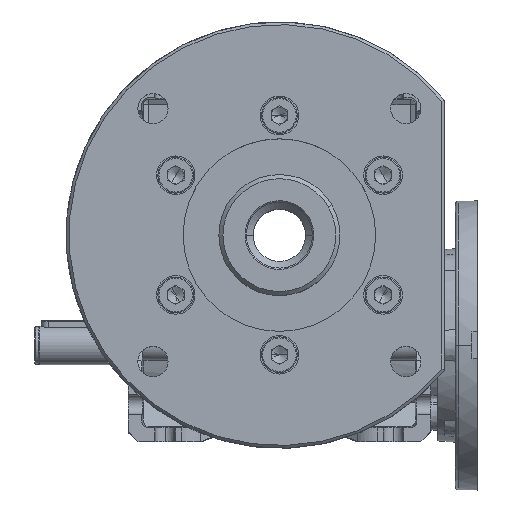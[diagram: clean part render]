
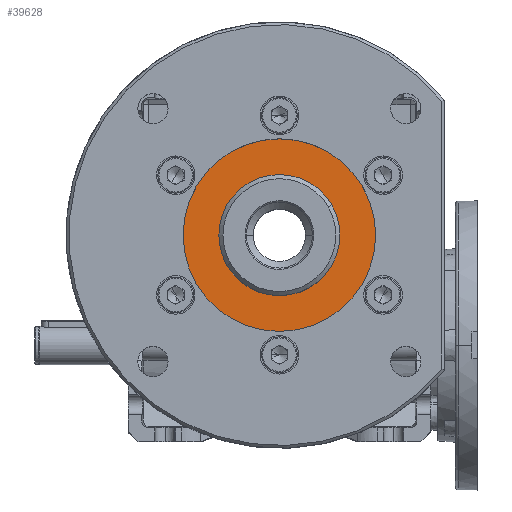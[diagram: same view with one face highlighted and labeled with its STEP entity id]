
A CAD part, top view. The second image highlights one B-rep face of the part: STEP entity #39628.
In plain terms, the highlighted planar face has unit normal (0, 0, 1).
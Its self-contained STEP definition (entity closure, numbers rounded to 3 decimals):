
#4089 = CARTESIAN_POINT ( 'NONE',  ( 0., 0., 58. ) ) ;
#7333 = CARTESIAN_POINT ( 'NONE',  ( -11., 19.053, 58. ) ) ;
#9053 = VERTEX_POINT ( 'NONE', #30747 ) ;
#11925 = ORIENTED_EDGE ( 'NONE', *, *, #33219, .F. ) ;
#12842 = EDGE_LOOP ( 'NONE', ( #72723, #68504 ) ) ;
#12880 = DIRECTION ( 'NONE',  ( 1., 0., 0. ) ) ;
#22388 = VERTEX_POINT ( 'NONE', #99630 ) ;
#23681 = FACE_OUTER_BOUND ( 'NONE', #62268, .T. ) ;
#24751 = FACE_BOUND ( 'NONE', #12842, .T. ) ;
#24763 = VERTEX_POINT ( 'NONE', #56347 ) ;
#25285 = CIRCLE ( 'NONE', #84377, 22. ) ;
#30747 = CARTESIAN_POINT ( 'NONE',  ( 19.053, 11., 58. ) ) ;
#33219 = EDGE_CURVE ( 'NONE', #65131, #22388, #34848, .T. ) ;
#34848 = CIRCLE ( 'NONE', #88840, 35. ) ;
#35628 = CARTESIAN_POINT ( 'NONE',  ( 0., 0., 58. ) ) ;
#35925 = DIRECTION ( 'NONE',  ( -0.866, -0.5, 0. ) ) ;
#39628 = ADVANCED_FACE ( 'NONE', ( #23681, #24751 ), #89298, .F. ) ;
#39696 = CARTESIAN_POINT ( 'NONE',  ( 0., 0., 58. ) ) ;
#47381 = EDGE_CURVE ( 'NONE', #9053, #24763, #53821, .T. ) ;
#49919 = CARTESIAN_POINT ( 'NONE',  ( 35., 0., 58. ) ) ;
#53821 = CIRCLE ( 'NONE', #94376, 22. ) ;
#56347 = CARTESIAN_POINT ( 'NONE',  ( -19.053, -11., 58. ) ) ;
#57003 = DIRECTION ( 'NONE',  ( 0., 0., -1. ) ) ;
#62268 = EDGE_LOOP ( 'NONE', ( #11925, #90342 ) ) ;
#63869 = DIRECTION ( 'NONE',  ( -0.866, -0.5, 0. ) ) ;
#65131 = VERTEX_POINT ( 'NONE', #49919 ) ;
#68504 = ORIENTED_EDGE ( 'NONE', *, *, #47381, .T. ) ;
#71396 = DIRECTION ( 'NONE',  ( 1., 0., 0. ) ) ;
#71924 = DIRECTION ( 'NONE',  ( 0., 0., -1. ) ) ;
#71972 = EDGE_CURVE ( 'NONE', #24763, #9053, #25285, .T. ) ;
#72723 = ORIENTED_EDGE ( 'NONE', *, *, #71972, .T. ) ;
#74928 = DIRECTION ( 'NONE',  ( 0., 0., -1. ) ) ;
#83899 = AXIS2_PLACEMENT_3D ( 'NONE', #7333, #57003, #63869 ) ;
#84377 = AXIS2_PLACEMENT_3D ( 'NONE', #85635, #93542, #35925 ) ;
#85635 = CARTESIAN_POINT ( 'NONE',  ( 0., 0., 58. ) ) ;
#85855 = DIRECTION ( 'NONE',  ( 0., 0., -1. ) ) ;
#88840 = AXIS2_PLACEMENT_3D ( 'NONE', #35628, #85855, #12880 ) ;
#89298 = PLANE ( 'NONE',  #83899 ) ;
#90342 = ORIENTED_EDGE ( 'NONE', *, *, #91176, .F. ) ;
#91176 = EDGE_CURVE ( 'NONE', #22388, #65131, #92812, .T. ) ;
#92812 = CIRCLE ( 'NONE', #96206, 35. ) ;
#92899 = DIRECTION ( 'NONE',  ( -0.866, -0.5, 0. ) ) ;
#93542 = DIRECTION ( 'NONE',  ( 0., 0., -1. ) ) ;
#94376 = AXIS2_PLACEMENT_3D ( 'NONE', #4089, #74928, #92899 ) ;
#96206 = AXIS2_PLACEMENT_3D ( 'NONE', #39696, #71924, #71396 ) ;
#99630 = CARTESIAN_POINT ( 'NONE',  ( -35., 0., 58. ) ) ;
